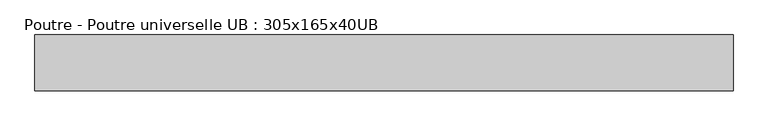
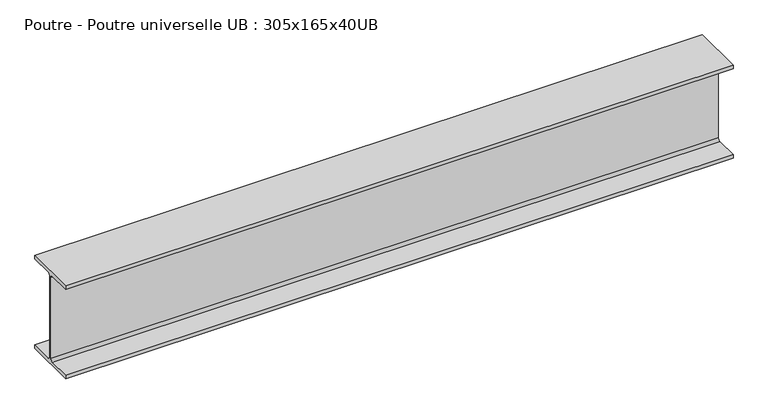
"""IFC4 building model written with IfcOpenShell, lengths in millimetres: beam geometry, Poutre - Poutre universelle UB : 305x165x40UB."""

from ifc_helpers import new_model, si_unit, point, frame, frame_2d, origin, place, context, project, spatial, polyline, circle_curve, trimmed, segment, composite_curve, outline, extrude, source, transform, mapped, element, save


def poutre_poutre_universelle_ub_305x165x40ub_01750e5d(model_context):
    return source(origin(), model_context, "Body", "SweptSolid", [
        extrude(outline(composite_curve([segment(polyline([(82.5, -141.5), (82.5, -151.7), (-82.5, -151.7), (-82.5, -141.5), (-11.9, -141.5)]), True, "CONTINUOUS"), segment(trimmed(circle_curve(frame_2d((-11.9, -132.6)), 8.9), [point((-11.9, -141.5))], [point((-3.0, -132.6))], True, "CARTESIAN"), True, "CONTINUOUS"), segment(polyline([(-3.0, -132.6), (-3.0, 132.6)]), True, "CONTINUOUS"), segment(trimmed(circle_curve(frame_2d((-11.9, 132.6)), 8.9), [point((-3.0, 132.6))], [point((-11.9, 141.5))], True, "CARTESIAN"), True, "CONTINUOUS"), segment(polyline([(-11.9, 141.5), (-82.5, 141.5), (-82.5, 151.7), (82.5, 151.7), (82.5, 141.5), (11.9, 141.5)]), True, "CONTINUOUS"), segment(trimmed(circle_curve(frame_2d((11.9, 132.6)), 8.9), [point((11.9, 141.5))], [point((3.0, 132.6))], True, "CARTESIAN"), True, "CONTINUOUS"), segment(polyline([(3.0, 132.6), (3.0, -132.6)]), True, "CONTINUOUS"), segment(trimmed(circle_curve(frame_2d((11.9, -132.6)), 8.9), [point((3.0, -132.6))], [point((11.9, -141.5))], True, "CARTESIAN"), True, "CONTINUOUS"), segment(polyline([(11.9, -141.5), (82.5, -141.5)]), True, "CONTINUOUS")], self_intersect=False)), frame((-1120.0, 0.0, 0.0), z_axis=(1.0, 0.0, 0.0), x_axis=(0.0, 1.0, 0.0)), (0.0, 0.0, 1.0), 2068.0),
    ])


if __name__ == "__main__":
    model = new_model("IFC4")
    model_context = context("Model", 3, world=origin())
    ifc_project = project(units=[si_unit("LENGTHUNIT", "METRE", prefix="MILLI")], contexts=[model_context])
    site = spatial("IfcSite", under=ifc_project)
    building = spatial("IfcBuilding", under=site)
    placement = place(None, origin())
    poutre_poutre_universelle_ub_305x165x40ub_shape = poutre_poutre_universelle_ub_305x165x40ub_01750e5d(model_context)
    element("IfcBeam", 1, ObjectType="Poutre - Poutre universelle UB : 305x165x40UB", at=placement, inside=building, context=model_context, shape_type="MappedRepresentation", body=[
        mapped(poutre_poutre_universelle_ub_305x165x40ub_shape, transform((0.0, 0.0, 0.0), x_axis=(1.0, 0.0, 0.0), y_axis=(0.0, 1.0, 0.0), z_axis=(0.0, 0.0, 1.0))),
    ])
    save(model, "model.ifc")
